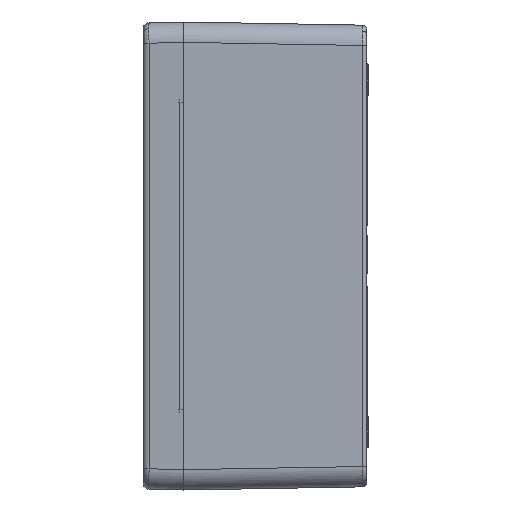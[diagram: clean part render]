
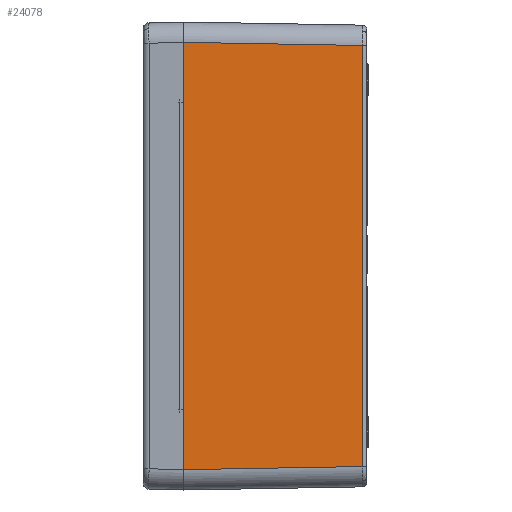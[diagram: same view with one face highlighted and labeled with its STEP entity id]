
A CAD part, left-side view. The second image highlights one B-rep face of the part: STEP entity #24078.
In plain terms, the highlighted planar face has unit normal (-1, -0.018, 0).
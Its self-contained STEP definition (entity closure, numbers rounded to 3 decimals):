
#596 = ORIENTED_EDGE ( 'NONE', *, *, #52767, .T. ) ;
#1698 = ORIENTED_EDGE ( 'NONE', *, *, #59958, .F. ) ;
#6474 = ORIENTED_EDGE ( 'NONE', *, *, #67114, .T. ) ;
#8065 = LINE ( 'NONE', #60091, #53629 ) ;
#8491 = CARTESIAN_POINT ( 'NONE',  ( -300., 0., 105.002 ) ) ;
#8754 = DIRECTION ( 'NONE',  ( -1., -0.017, 0. ) ) ;
#10656 = CARTESIAN_POINT ( 'NONE',  ( -300.003, 0.174, -105.005 ) ) ;
#12789 = ORIENTED_EDGE ( 'NONE', *, *, #13389, .T. ) ;
#13389 = EDGE_CURVE ( 'NONE', #65005, #70894, #69868, .T. ) ;
#20171 = VERTEX_POINT ( 'NONE', #8491 ) ;
#24078 = ADVANCED_FACE ( 'NONE', ( #36740 ), #56056, .T. ) ;
#24399 = LINE ( 'NONE', #37649, #27158 ) ;
#24472 = DIRECTION ( 'NONE',  ( 0., 0., 1. ) ) ;
#27097 = VECTOR ( 'NONE', #46192, 1000. ) ;
#27158 = VECTOR ( 'NONE', #67754, 1000. ) ;
#34774 = LINE ( 'NONE', #10656, #43094 ) ;
#36740 = FACE_OUTER_BOUND ( 'NONE', #54875, .T. ) ;
#37649 = CARTESIAN_POINT ( 'NONE',  ( -299.933, -3.838, 104.935 ) ) ;
#38355 = CARTESIAN_POINT ( 'NONE',  ( -300., 0., -115. ) ) ;
#43094 = VECTOR ( 'NONE', #45517, 1000. ) ;
#45517 = DIRECTION ( 'NONE',  ( 0.017, -1., 0.017 ) ) ;
#46192 = DIRECTION ( 'NONE',  ( 0., 0., 1. ) ) ;
#46539 = CARTESIAN_POINT ( 'NONE',  ( -300., 0., -105.002 ) ) ;
#48676 = VERTEX_POINT ( 'NONE', #46539 ) ;
#52156 = CARTESIAN_POINT ( 'NONE',  ( -298.463, -88.035, 103.431 ) ) ;
#52767 = EDGE_CURVE ( 'NONE', #70894, #20171, #24399, .T. ) ;
#53629 = VECTOR ( 'NONE', #24472, 1000. ) ;
#54875 = EDGE_LOOP ( 'NONE', ( #6474, #12789, #596, #1698 ) ) ;
#55360 = AXIS2_PLACEMENT_3D ( 'NONE', #38355, #8754, #74690 ) ;
#56056 = PLANE ( 'NONE',  #55360 ) ;
#59555 = CARTESIAN_POINT ( 'NONE',  ( -298.463, -88.035, 103.465 ) ) ;
#59958 = EDGE_CURVE ( 'NONE', #48676, #20171, #8065, .T. ) ;
#60091 = CARTESIAN_POINT ( 'NONE',  ( -300., 0., -115. ) ) ;
#65005 = VERTEX_POINT ( 'NONE', #68231 ) ;
#67114 = EDGE_CURVE ( 'NONE', #48676, #65005, #34774, .T. ) ;
#67754 = DIRECTION ( 'NONE',  ( -0.017, 1., 0.017 ) ) ;
#68231 = CARTESIAN_POINT ( 'NONE',  ( -298.463, -88.035, -103.465 ) ) ;
#69868 = LINE ( 'NONE', #52156, #27097 ) ;
#70894 = VERTEX_POINT ( 'NONE', #59555 ) ;
#74690 = DIRECTION ( 'NONE',  ( -0.017, 1., 0. ) ) ;
